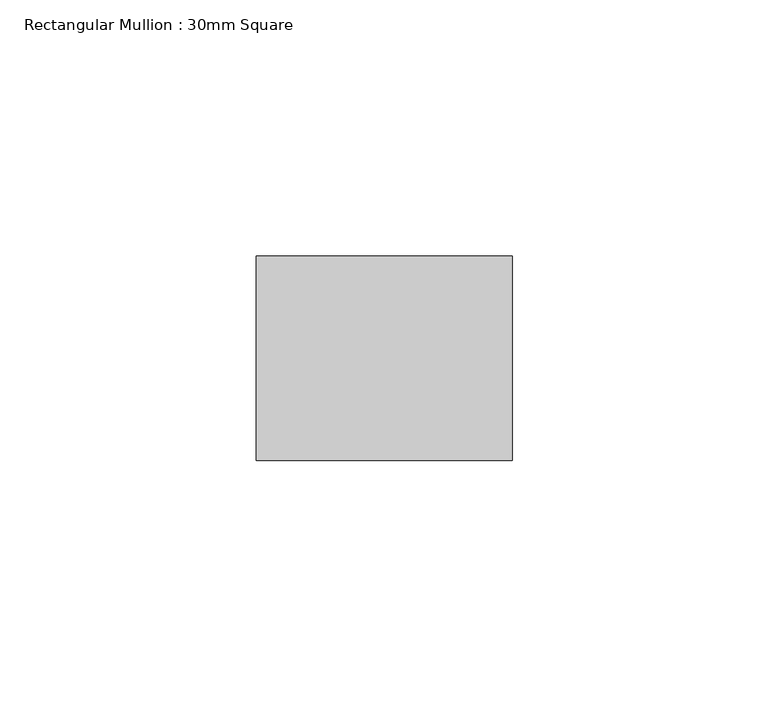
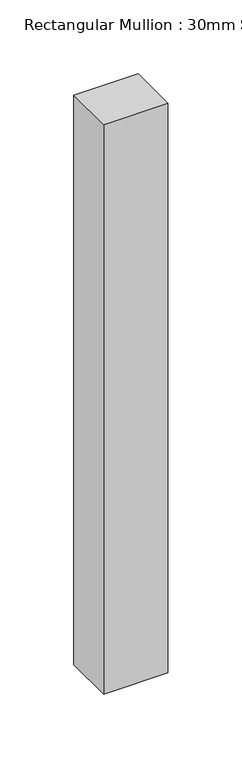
"""IFC4 building model written with IfcOpenShell, lengths in millimetres: member geometry, Rectangular Mullion : 30mm Square."""

from ifc_helpers import new_model, si_unit, frame, origin, place, context, project, spatial, polyline, outline, extrude, source, transform, mapped, element, save


def rectangular_mullion_30mm_square_0144705c(model_context):
    return source(origin(), model_context, "Body", "SweptSolid", [
        extrude(outline(polyline([(0.0, 20.0), (0.0, -20.0), (-50.0, -20.0), (-50.0, 20.0), (0.0, 20.0)])), frame((0.0, 0.0, -470.0), z_axis=(0.0, 0.0, 1.0), x_axis=(1.0, 0.0, 0.0)), (0.0, 0.0, 1.0), 470.0),
    ])


if __name__ == "__main__":
    model = new_model("IFC4")
    model_context = context("Model", 3, world=origin())
    ifc_project = project(units=[si_unit("LENGTHUNIT", "METRE", prefix="MILLI")], contexts=[model_context])
    site = spatial("IfcSite", under=ifc_project)
    building = spatial("IfcBuilding", under=site)
    placement = place(None, origin())
    rectangular_mullion_30mm_square_shape = rectangular_mullion_30mm_square_0144705c(model_context)
    element("IfcMember", 1, ObjectType="Rectangular Mullion : 30mm Square", at=placement, inside=building, context=model_context, shape_type="MappedRepresentation", body=[
        mapped(rectangular_mullion_30mm_square_shape, transform((0.0, 0.0, 0.0), x_axis=(1.0, 0.0, 0.0), y_axis=(0.0, 1.0, 0.0), z_axis=(0.0, 0.0, 1.0))),
    ])
    save(model, "model.ifc")
